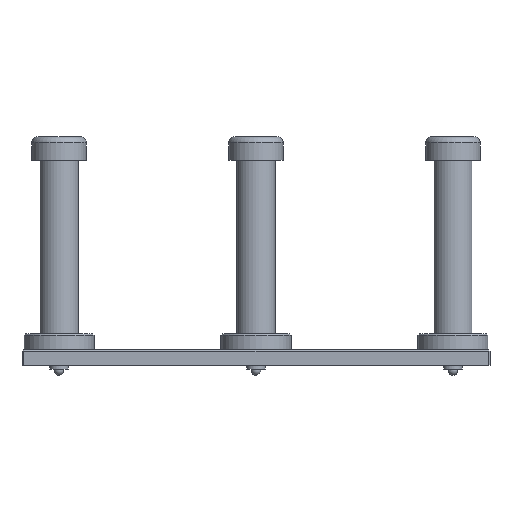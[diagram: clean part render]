
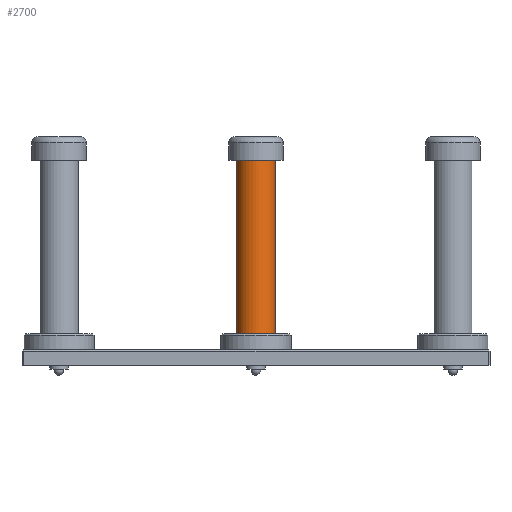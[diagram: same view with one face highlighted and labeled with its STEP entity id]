
A CAD part, front view. The second image highlights one B-rep face of the part: STEP entity #2700.
In plain terms, the highlighted cylindrical face has radius 12.5 mm (diameter 25 mm), a full revolution.
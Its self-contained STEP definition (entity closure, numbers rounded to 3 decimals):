
#2573=CYLINDRICAL_SURFACE('',#10051,12.5);
#2700=ADVANCED_FACE('',(#3718,#3719),#2573,.T.);
#3718=FACE_BOUND('',#4115,.T.);
#3719=FACE_BOUND('',#4116,.T.);
#4115=EDGE_LOOP('',(#4961));
#4116=EDGE_LOOP('',(#4962));
#4961=ORIENTED_EDGE('',*,*,#8460,.F.);
#4962=ORIENTED_EDGE('',*,*,#8453,.T.);
#7555=VERTEX_POINT('',#13171);
#7562=VERTEX_POINT('',#13188);
#8453=EDGE_CURVE('',#7555,#7555,#9761,.T.);
#8460=EDGE_CURVE('',#7562,#7562,#9768,.T.);
#9761=CIRCLE('',#10040,12.5);
#9768=CIRCLE('',#10050,12.5);
#10040=AXIS2_PLACEMENT_3D('',#13170,#10864,#10865);
#10050=AXIS2_PLACEMENT_3D('',#13187,#10884,#10885);
#10051=AXIS2_PLACEMENT_3D('',#13189,#10886,#10887);
#10864=DIRECTION('',(0.,0.,1.));
#10865=DIRECTION('',(0.,-1.,0.));
#10884=DIRECTION('',(0.,0.,1.));
#10885=DIRECTION('',(0.,-1.,0.));
#10886=DIRECTION('',(0.,0.,1.));
#10887=DIRECTION('',(0.,-1.,0.));
#13170=CARTESIAN_POINT('',(306.,265.25,20.));
#13171=CARTESIAN_POINT('',(306.,252.75,20.));
#13187=CARTESIAN_POINT('',(306.,265.25,131.423));
#13188=CARTESIAN_POINT('',(306.,252.75,131.423));
#13189=CARTESIAN_POINT('',(306.,265.25,20.));
